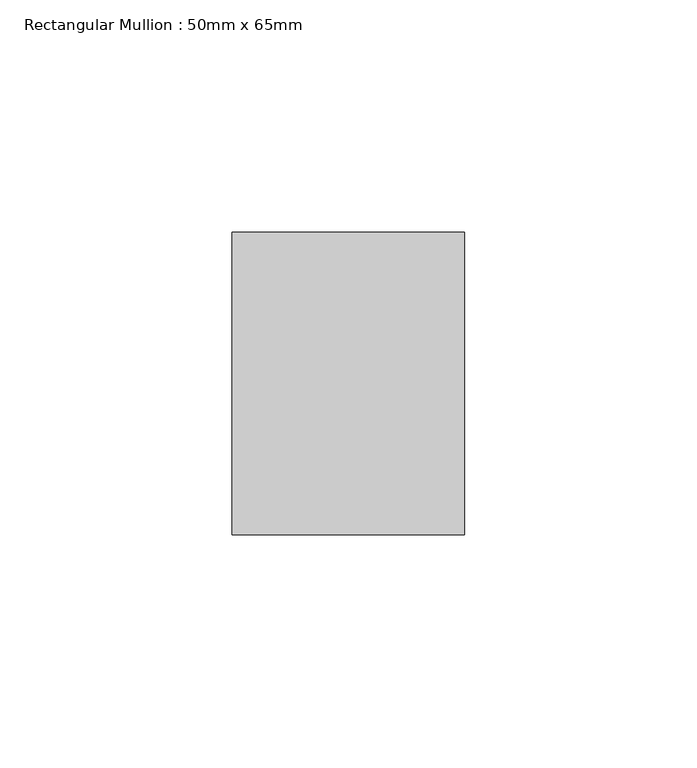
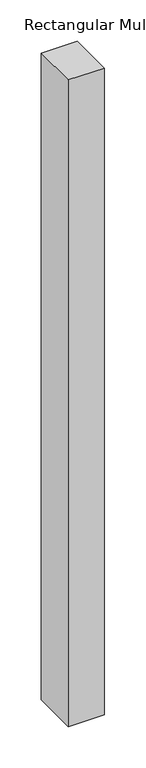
"""IFC4 building model written with IfcOpenShell, lengths in millimetres: member geometry, Rectangular Mullion : 50mm x 65mm."""

from ifc_helpers import new_model, si_unit, frame, origin, place, context, project, spatial, polyline, outline, extrude, source, transform, mapped, element, save


def rectangular_mullion_50mm_x_65mm_dd78f4de(model_context):
    return source(origin(), model_context, "Body", "SweptSolid", [
        extrude(outline(polyline([(0.0, 32.5), (0.0, -32.5), (-50.0, -32.5), (-50.0, 32.5), (0.0, 32.5)])), frame((0.0, 0.0, -953.7275682), z_axis=(0.0, 0.0, 1.0), x_axis=(1.0, 0.0, 0.0)), (0.0, 0.0, 1.0), 953.7275682),
    ])


if __name__ == "__main__":
    model = new_model("IFC4")
    model_context = context("Model", 3, world=origin())
    ifc_project = project(units=[si_unit("LENGTHUNIT", "METRE", prefix="MILLI")], contexts=[model_context])
    site = spatial("IfcSite", under=ifc_project)
    building = spatial("IfcBuilding", under=site)
    placement = place(None, origin())
    rectangular_mullion_50mm_x_65mm_shape = rectangular_mullion_50mm_x_65mm_dd78f4de(model_context)
    element("IfcMember", 1, ObjectType="Rectangular Mullion : 50mm x 65mm", at=placement, inside=building, context=model_context, shape_type="MappedRepresentation", body=[
        mapped(rectangular_mullion_50mm_x_65mm_shape, transform((0.0, 0.0, 0.0), x_axis=(1.0, 0.0, 0.0), y_axis=(0.0, 1.0, 0.0), z_axis=(0.0, 0.0, 1.0))),
    ])
    save(model, "model.ifc")
